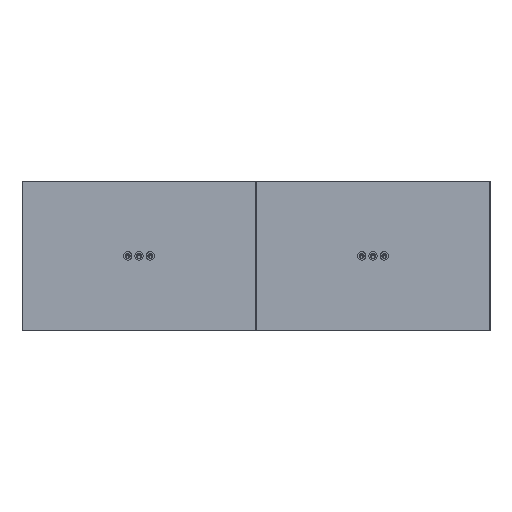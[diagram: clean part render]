
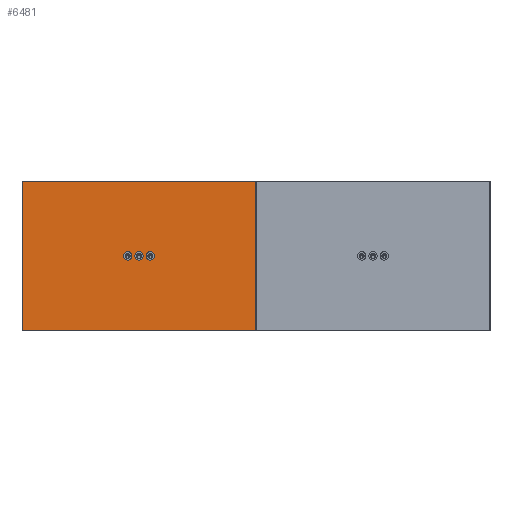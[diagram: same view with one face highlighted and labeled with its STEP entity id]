
A CAD part, top view. The second image highlights one B-rep face of the part: STEP entity #6481.
In plain terms, the highlighted planar face has unit normal (0, 0, 1).
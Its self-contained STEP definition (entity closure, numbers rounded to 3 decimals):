
#6416=CARTESIAN_POINT('',(-1873.5,598.5,750.));
#6417=VERTEX_POINT('',#6416);
#6418=CARTESIAN_POINT('',(-1873.5,-598.5,750.));
#6419=VERTEX_POINT('',#6418);
#6420=CARTESIAN_POINT('',(-1873.5,598.5,750.));
#6421=DIRECTION('',(0.,-1.,0.));
#6422=VECTOR('',#6421,1197.);
#6423=LINE('',#6420,#6422);
#6424=EDGE_CURVE('',#6417,#6419,#6423,.T.);
#6451=CARTESIAN_POINT('',(-937.75,0.,750.));
#6452=DIRECTION('',(1.,0.,0.));
#6453=DIRECTION('',(-0.,0.,1.));
#6454=AXIS2_PLACEMENT_3D('',#6451,#6453,#6452);
#6455=PLANE('',#6454);
#6456=ORIENTED_EDGE('',*,*,#6424,.T.);
#6457=CARTESIAN_POINT('',(-2.,-598.5,750.));
#6458=VERTEX_POINT('',#6457);
#6459=CARTESIAN_POINT('',(-1873.5,-598.5,750.));
#6460=DIRECTION('',(1.,0.,0.));
#6461=VECTOR('',#6460,1871.5);
#6462=LINE('',#6459,#6461);
#6463=EDGE_CURVE('',#6419,#6458,#6462,.T.);
#6464=ORIENTED_EDGE('E625',*,*,#6463,.T.);
#6465=CARTESIAN_POINT('',(-2.,598.5,750.));
#6466=VERTEX_POINT('',#6465);
#6467=CARTESIAN_POINT('',(-2.,-598.5,750.));
#6468=DIRECTION('',(0.,1.,0.));
#6469=VECTOR('',#6468,1197.);
#6470=LINE('',#6467,#6469);
#6471=EDGE_CURVE('',#6458,#6466,#6470,.T.);
#6472=ORIENTED_EDGE('E638',*,*,#6471,.T.);
#6473=CARTESIAN_POINT('',(-2.,598.5,750.));
#6474=DIRECTION('',(-1.,0.,0.));
#6475=VECTOR('',#6474,1871.5);
#6476=LINE('',#6473,#6475);
#6477=EDGE_CURVE('',#6466,#6417,#6476,.T.);
#6478=ORIENTED_EDGE('E637',*,*,#6477,.T.);
#6479=EDGE_LOOP('',(#6456,#6464,#6472,#6478));
#6480=FACE_OUTER_BOUND('',#6479,.T.);
#6481=ADVANCED_FACE('F389',(#6480),#6455,.T.);
